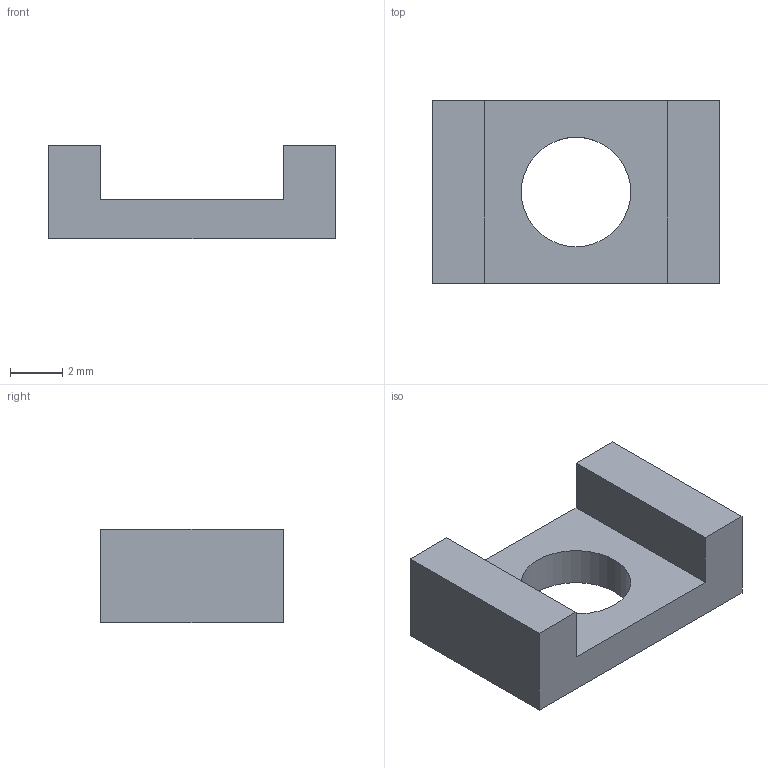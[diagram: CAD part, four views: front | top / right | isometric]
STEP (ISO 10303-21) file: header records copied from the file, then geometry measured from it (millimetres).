
FILE_DESCRIPTION(/* description */ ('Unknown'),/* implementation_level */ '2;1');
FILE_NAME(/* name */ 'INP04-2',/* time_stamp */ '2026-09-17T11:15:35+08:00',/* author */ ('Unknown'),/* organization */ ('Unknown'),/* preprocessor_version */ 'ST-DEVELOPER v16.7',/* originating_system */ 'DEX',/* authorisation */ $);
FILE_SCHEMA (('AUTOMOTIVE_DESIGN {1 0 10303 214 3 1 1}'));
Length unit declared in the file: millimetre
Products named in the file (1): INP04-2
Bounding box: 11 x 7 x 3.6 mm (x, y, z)
Volume: 153.5 mm3; surface area: 275.7 mm2
Topology: 1 solids, 1 shells, 11 faces, 28 edges, 19 vertices
Faces by surface type: plane 10, cylinder 1
Full cylindrical faces by diameter (mm): 4.2 x1
Entity records: 352 total; most frequent: CARTESIAN_POINT 56, ORIENTED_EDGE 52, DIRECTION 52, EDGE_CURVE 26, LINE 24, VECTOR 24, VERTEX_POINT 18, EDGE_LOOP 14
